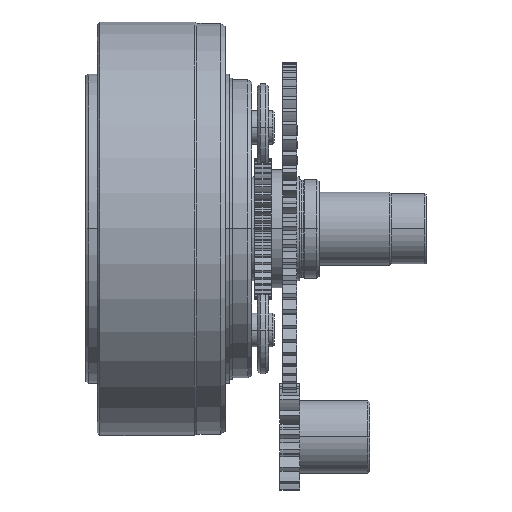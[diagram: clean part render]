
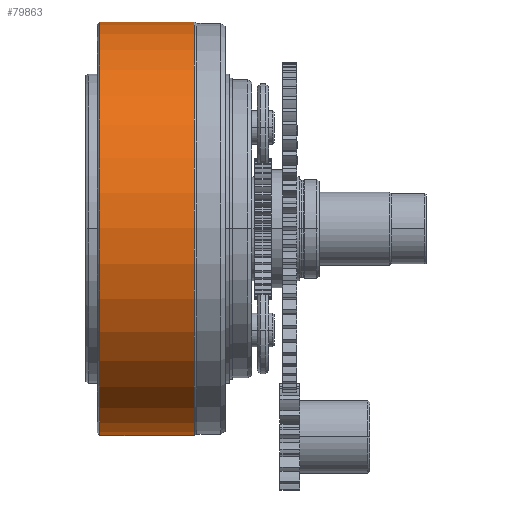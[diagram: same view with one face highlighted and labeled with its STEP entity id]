
A CAD part, top view. The second image highlights one B-rep face of the part: STEP entity #79863.
In plain terms, the highlighted cylindrical face has radius 73.5 mm (diameter 147 mm), a partial arc.
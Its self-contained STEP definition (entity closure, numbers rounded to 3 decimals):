
#1567 = ORIENTED_EDGE ( 'NONE', *, *, #57569, .T. ) ;
#9428 = VERTEX_POINT ( 'NONE', #78686 ) ;
#11669 = VERTEX_POINT ( 'NONE', #104981 ) ;
#14645 = VECTOR ( 'NONE', #61501, 1000. ) ;
#19480 = AXIS2_PLACEMENT_3D ( 'NONE', #88142, #37786, #74291 ) ;
#23526 = VECTOR ( 'NONE', #79585, 1000. ) ;
#28329 = CARTESIAN_POINT ( 'NONE',  ( 36.808, -14.086, 0. ) ) ;
#30409 = ORIENTED_EDGE ( 'NONE', *, *, #106501, .F. ) ;
#33484 = ORIENTED_EDGE ( 'NONE', *, *, #66507, .T. ) ;
#34460 = LINE ( 'NONE', #69259, #23526 ) ;
#37403 = DIRECTION ( 'NONE',  ( 1., 0., 0. ) ) ;
#37529 = AXIS2_PLACEMENT_3D ( 'NONE', #28329, #79186, #104898 ) ;
#37786 = DIRECTION ( 'NONE',  ( 1., 0., 0. ) ) ;
#39816 = CARTESIAN_POINT ( 'NONE',  ( 36.808, 59.414, 0. ) ) ;
#42949 = CIRCLE ( 'NONE', #37529, 73.5 ) ;
#44094 = FACE_OUTER_BOUND ( 'NONE', #76295, .T. ) ;
#56317 = VERTEX_POINT ( 'NONE', #91082 ) ;
#57569 = EDGE_CURVE ( 'NONE', #11669, #9428, #34460, .T. ) ;
#59874 = EDGE_CURVE ( 'NONE', #56317, #111963, #60933, .T. ) ;
#60727 = AXIS2_PLACEMENT_3D ( 'NONE', #89426, #37403, #72239 ) ;
#60933 = LINE ( 'NONE', #105530, #14645 ) ;
#61234 = CYLINDRICAL_SURFACE ( 'NONE', #19480, 73.5 ) ;
#61501 = DIRECTION ( 'NONE',  ( 1., 0., 0. ) ) ;
#66507 = EDGE_CURVE ( 'NONE', #56317, #11669, #110038, .T. ) ;
#69259 = CARTESIAN_POINT ( 'NONE',  ( 19.993, -87.586, 0. ) ) ;
#72239 = DIRECTION ( 'NONE',  ( 0., 1., 0. ) ) ;
#74291 = DIRECTION ( 'NONE',  ( 0., 1., 0. ) ) ;
#76295 = EDGE_LOOP ( 'NONE', ( #33484, #1567, #30409, #97367 ) ) ;
#78686 = CARTESIAN_POINT ( 'NONE',  ( 36.808, -87.586, 0. ) ) ;
#79186 = DIRECTION ( 'NONE',  ( 1., 0., 0. ) ) ;
#79585 = DIRECTION ( 'NONE',  ( 1., 0., 0. ) ) ;
#79863 = ADVANCED_FACE ( 'NONE', ( #44094 ), #61234, .T. ) ;
#88142 = CARTESIAN_POINT ( 'NONE',  ( 19.993, -14.086, 0. ) ) ;
#89426 = CARTESIAN_POINT ( 'NONE',  ( 3.178, -14.086, 0. ) ) ;
#91082 = CARTESIAN_POINT ( 'NONE',  ( 3.178, 59.414, 0. ) ) ;
#97367 = ORIENTED_EDGE ( 'NONE', *, *, #59874, .F. ) ;
#104898 = DIRECTION ( 'NONE',  ( 0., 1., 0. ) ) ;
#104981 = CARTESIAN_POINT ( 'NONE',  ( 3.178, -87.586, 0. ) ) ;
#105530 = CARTESIAN_POINT ( 'NONE',  ( 19.993, 59.414, 0. ) ) ;
#106501 = EDGE_CURVE ( 'NONE', #111963, #9428, #42949, .T. ) ;
#110038 = CIRCLE ( 'NONE', #60727, 73.5 ) ;
#111963 = VERTEX_POINT ( 'NONE', #39816 ) ;
